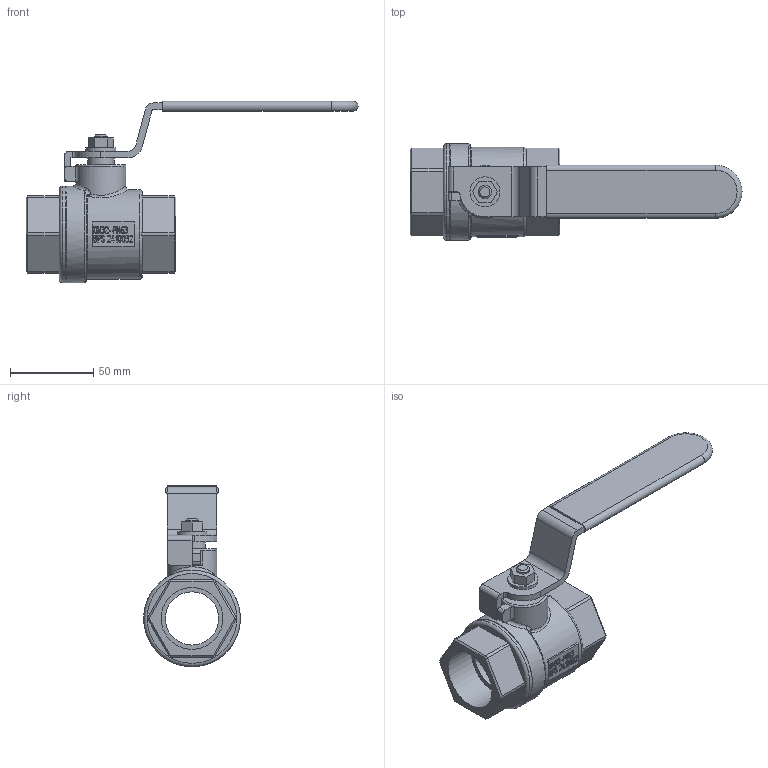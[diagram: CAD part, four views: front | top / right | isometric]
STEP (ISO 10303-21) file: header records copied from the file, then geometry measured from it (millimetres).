
FILE_DESCRIPTION( ( 'Unknown' ), '1' );
FILE_NAME( 'C:/Documents and Settings/Klaus/My Documents/Rootsi BPS 3D, Klaus/BPS 2410 ball valve, 2-pcs/STEP/BPS2410032 ball valve DN32.stp', 'Unknown', ( 'Unknown' ), ( 'Unknown' ), 'PSStep 10.1', 'Unknown', ' ' );
FILE_SCHEMA( ( 'AUTOMOTIVE_DESIGN { 1 0 10303 214 1 1 1 1 }' ) );
Length unit declared in the file: millimetre
Products named in the file (2): 1; 2
Bounding box: 199.5 x 58 x 109 mm (x, y, z)
Volume: 155679.5 mm3; surface area: 47258.2 mm2
Topology: 2 solids, 2 shells, 310 faces, 761 edges, 490 vertices
Faces by surface type: plane 215, extrusion 56, cylinder 24, bspline 8, torus 6, cone 1
Full cylindrical faces by diameter (mm): 8 x1, 16 x1, 18 x1, 30 x1, 32 x2, 37.129 x2, 54 x1, 58 x2
Entity records: 15455 total; most frequent: CARTESIAN_POINT 6390, ORIENTED_EDGE 1462, DIRECTION 1028, EDGE_CURVE 731, VERTEX_POINT 481, VECTOR 390, B_SPLINE_CURVE_WITH_KNOTS 382, EDGE_LOOP 370
